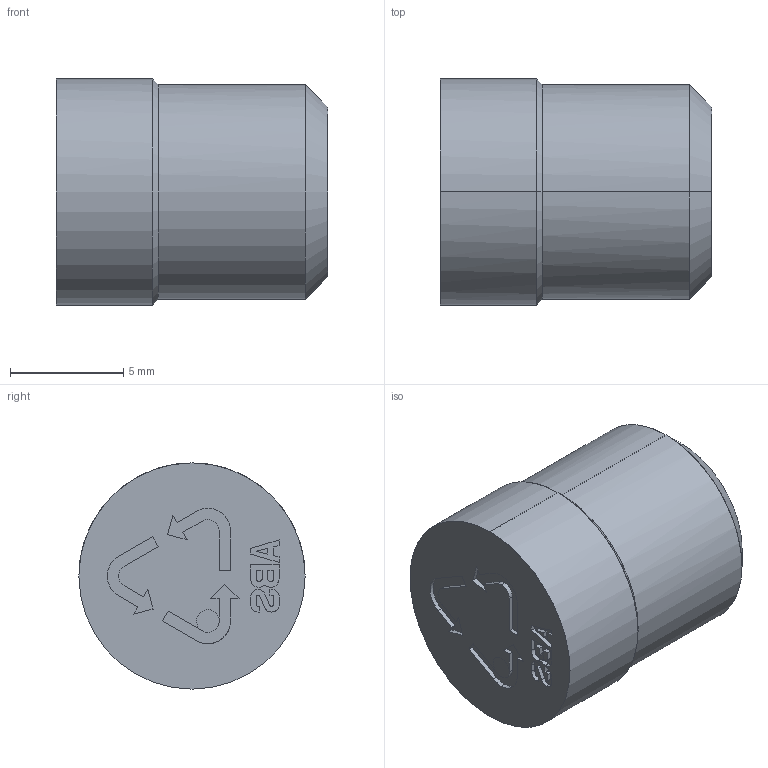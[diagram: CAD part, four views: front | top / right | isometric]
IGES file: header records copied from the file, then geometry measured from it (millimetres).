
Start section: START RECORD GO HERE.
Global section: file name: MABS10.igs; native system: DASSAULT SYSTEMES CATIA V5 R20 - www.3ds.com; preprocessor: CATIA Version 5 Release 20 ; author: Utente; organization: NB04-ASUS; date: 20210326.152737; units: millimetre
Bounding box: 12 x 10 x 10 mm (x, y, z)
Surface area: 576.1 mm2 (no closed solid volume)
Topology: 0 solids, 0 shells, 114 faces, 632 edges, 626 vertices
Faces by surface type: plane 70, revolution 44
